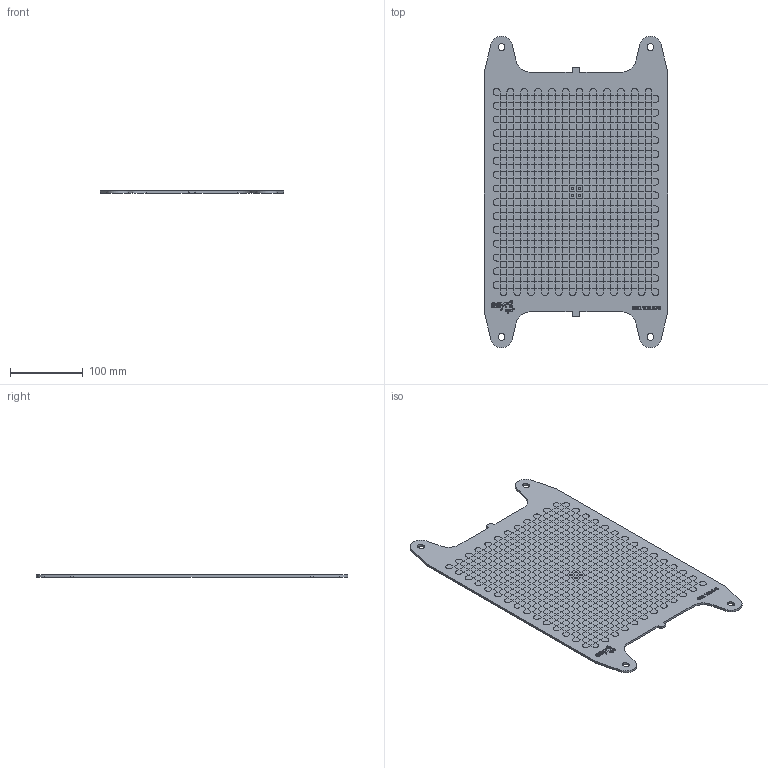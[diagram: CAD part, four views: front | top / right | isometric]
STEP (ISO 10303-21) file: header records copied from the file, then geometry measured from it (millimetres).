
FILE_DESCRIPTION (( 'STEP AP214' ), '1' );
FILE_NAME ('Asyril_EYE+ CALIBRATION PLATE - 380_000.103.976.STEP', '2020-11-05T11:27:40', ( '' ), ( '' ), 'SwSTEP 2.0', 'SolidWorks 2017', '' );
FILE_SCHEMA (( 'AUTOMOTIVE_DESIGN' ));
Length unit declared in the file: millimetre
Products named in the file (1): Asyril_EYE+ CALIBRATION PLATE - 380_000.103.976
Bounding box: 252.5 x 429 x 3 mm (x, y, z)
Volume: 270583.5 mm3; surface area: 185087.1 mm2
Topology: 1 solids, 1 shells, 763 faces, 1849 edges, 1126 vertices
Faces by surface type: plane 735, cylinder 28
Entity records: 26965 total; most frequent: CARTESIAN_POINT 5312, ORIENTED_EDGE 3698, DIRECTION 3341, EDGE_CURVE 1849, LINE 1581, VECTOR 1581, VERTEX_POINT 1126, AXIS2_PLACEMENT_3D 880
